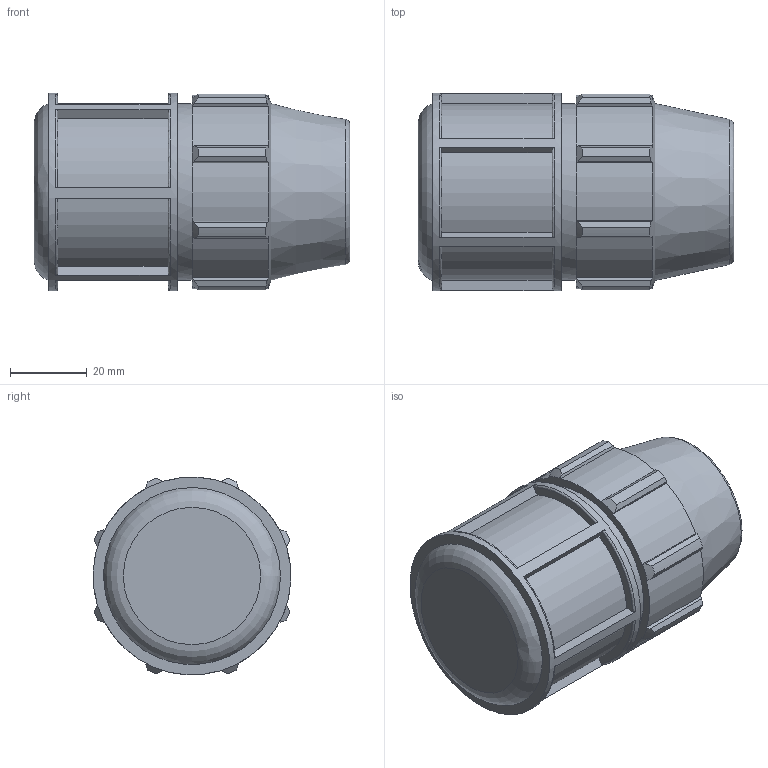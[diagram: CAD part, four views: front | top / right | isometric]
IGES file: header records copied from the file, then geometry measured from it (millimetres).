
Global section: file name: 0712M0070.ipt; native system: Autodesk Inventor 2019; preprocessor: unknown; author: Кирилл,,11,0; organization: 20170224.180708; date: 20210826.124721; units: inch
Bounding box: 82.04 x 51.35 x 51.4 mm (x, y, z)
Volume: 96987.5 mm3; surface area: 24440.5 mm2
Topology: 1 solids, 1 shells, 115 faces, 313 edges, 210 vertices
Faces by surface type: plane 63, cylinder 24, revolution 18, cone 10
Full cylindrical faces by diameter (mm): 45.987 x1, 51.397 x1
